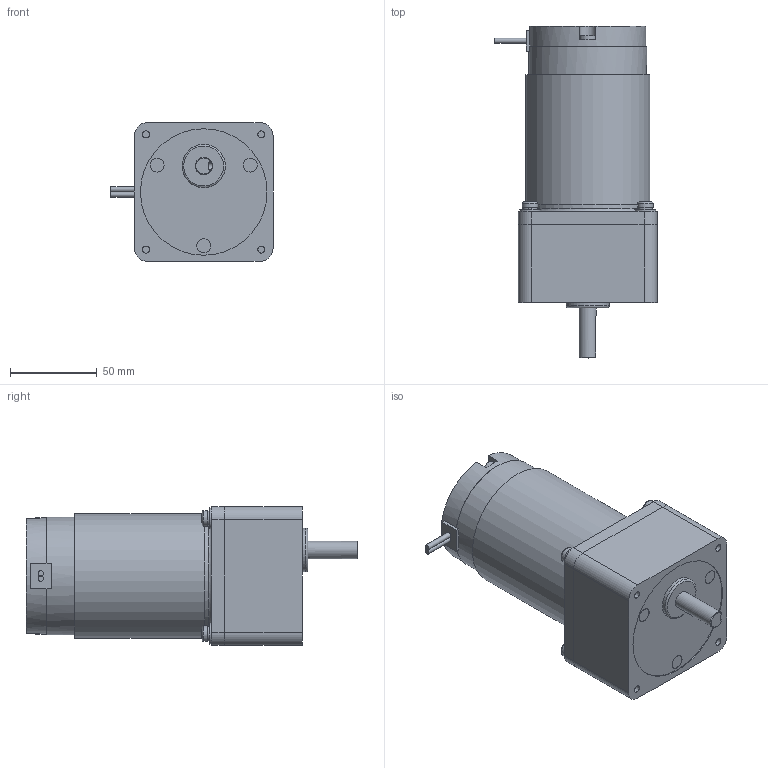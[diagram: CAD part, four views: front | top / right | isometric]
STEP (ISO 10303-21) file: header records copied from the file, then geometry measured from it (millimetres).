
FILE_DESCRIPTION((''),'2;1');
FILE_NAME('\\Servert1600\threepeace\2015homepage\STP\HP-Data_GM_3D_STEP\TP-72114A-DM-4.stp','2016-11-24T17:32:26',('Administrator'),(''),'Autodesk Inventor 2010','Autodesk Inventor 2010','');
FILE_SCHEMA(('AUTOMOTIVE_DESIGN { 1 0 10303 214 1 1 1 1 }'));
Length unit declared in the file: millimetre
Products named in the file (7): TP-72114A-DM-25～180-H00-24; DM-3; TP-72114A(GMに付ける用）; M5×45-WA000; _BOLTNSET5-45; _SPWASHNSET5-8; _WASHNSET5-8
Assembly tree (9 placements, depth 3):
  TP-72114A-DM-25～180-H00-24
    DM-3
    TP-72114A(GMに付ける用）
    M5×45-WA000  x4
      _BOLTNSET5-45
      _SPWASHNSET5-8
      _WASHNSET5-8
Bounding box: 93.5 x 191.5 x 80 mm (x, y, z)
Volume: 747788.5 mm3; surface area: 79072.4 mm2
Topology: 15 solids, 15 shells, 290 faces, 644 edges, 419 vertices
Faces by surface type: plane 170, cylinder 81, bspline 21, cone 9, torus 5, sphere 4
Full cylindrical faces by diameter (mm): 2.5 x2, 3 x2, 4.509 x4, 5 x10, 7 x1, 7.62 x1, 8 x4, 9 x4, 10 x1, 12 x4, 16 x1, 22 x1, 25 x1, 67 x1, 68 x2, 73 x3
Entity records: 5291 total; most frequent: CARTESIAN_POINT 1146, DIRECTION 841, ORIENTED_EDGE 694, EDGE_CURVE 347, AXIS2_PLACEMENT_3D 321, EDGE_LOOP 268, VERTEX_POINT 251, VECTOR 199
